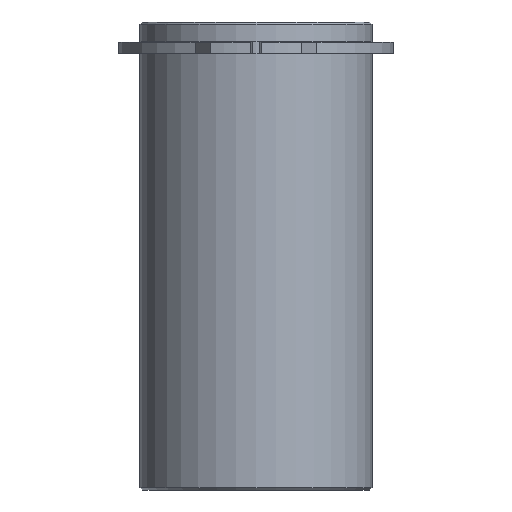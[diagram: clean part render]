
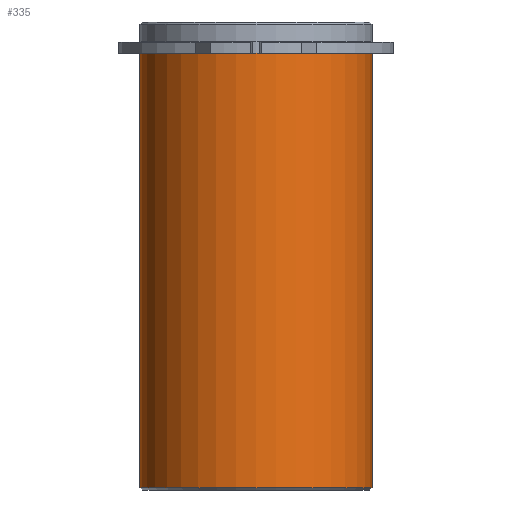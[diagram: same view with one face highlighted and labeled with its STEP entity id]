
A CAD part, front view. The second image highlights one B-rep face of the part: STEP entity #335.
In plain terms, the highlighted cylindrical face has radius 15.625 mm (diameter 31.25 mm), a partial arc.
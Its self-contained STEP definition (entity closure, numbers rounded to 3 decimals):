
#294=CARTESIAN_POINT('',(0.0,0.,-29.25));
#295=DIRECTION('',(0.0,0.,1.0));
#296=DIRECTION('',(1.0,0.0,0.0));
#297=AXIS2_PLACEMENT_3D('',#294,#295,#296);
#298=CYLINDRICAL_SURFACE('',#297,15.625);
#299=CARTESIAN_POINT('',(15.625,0.0,0.0));
#300=VERTEX_POINT('',#299);
#301=CARTESIAN_POINT('',(15.625,0.,-58.5));
#302=VERTEX_POINT('',#301);
#303=CARTESIAN_POINT('',(15.625,0.0,0.0));
#304=DIRECTION('',(0.0,0.0,-1.0));
#305=VECTOR('',#304,58.5);
#306=LINE('',#303,#305);
#307=EDGE_CURVE('',#300,#302,#306,.T.);
#308=ORIENTED_EDGE('',*,*,#307,.F.);
#309=CARTESIAN_POINT('',(-15.625,0.,0.0));
#310=VERTEX_POINT('',#309);
#311=CARTESIAN_POINT('',(0.0,0.0,0.0));
#312=DIRECTION('',(0.0,0.0,1.0));
#313=DIRECTION('',(1.0,0.0,0.0));
#314=AXIS2_PLACEMENT_3D('',#311,#312,#313);
#315=CIRCLE('',#314,15.625);
#316=EDGE_CURVE('',#310,#300,#315,.T.);
#317=ORIENTED_EDGE('',*,*,#316,.F.);
#318=CARTESIAN_POINT('',(-15.625,0.,-58.5));
#319=VERTEX_POINT('',#318);
#320=CARTESIAN_POINT('',(-15.625,0.,0.0));
#321=DIRECTION('',(0.0,0.0,-1.0));
#322=VECTOR('',#321,58.5);
#323=LINE('',#320,#322);
#324=EDGE_CURVE('',#310,#319,#323,.T.);
#325=ORIENTED_EDGE('',*,*,#324,.T.);
#326=CARTESIAN_POINT('',(0.0,0.,-58.5));
#327=DIRECTION('',(0.0,0.0,1.0));
#328=DIRECTION('',(1.0,0.0,0.0));
#329=AXIS2_PLACEMENT_3D('',#326,#327,#328);
#330=CIRCLE('',#329,15.625);
#331=EDGE_CURVE('',#319,#302,#330,.T.);
#332=ORIENTED_EDGE('',*,*,#331,.T.);
#333=EDGE_LOOP('',(#308,#317,#325,#332));
#334=FACE_OUTER_BOUND('',#333,.T.);
#335=ADVANCED_FACE('',(#334),#298,.T.);
